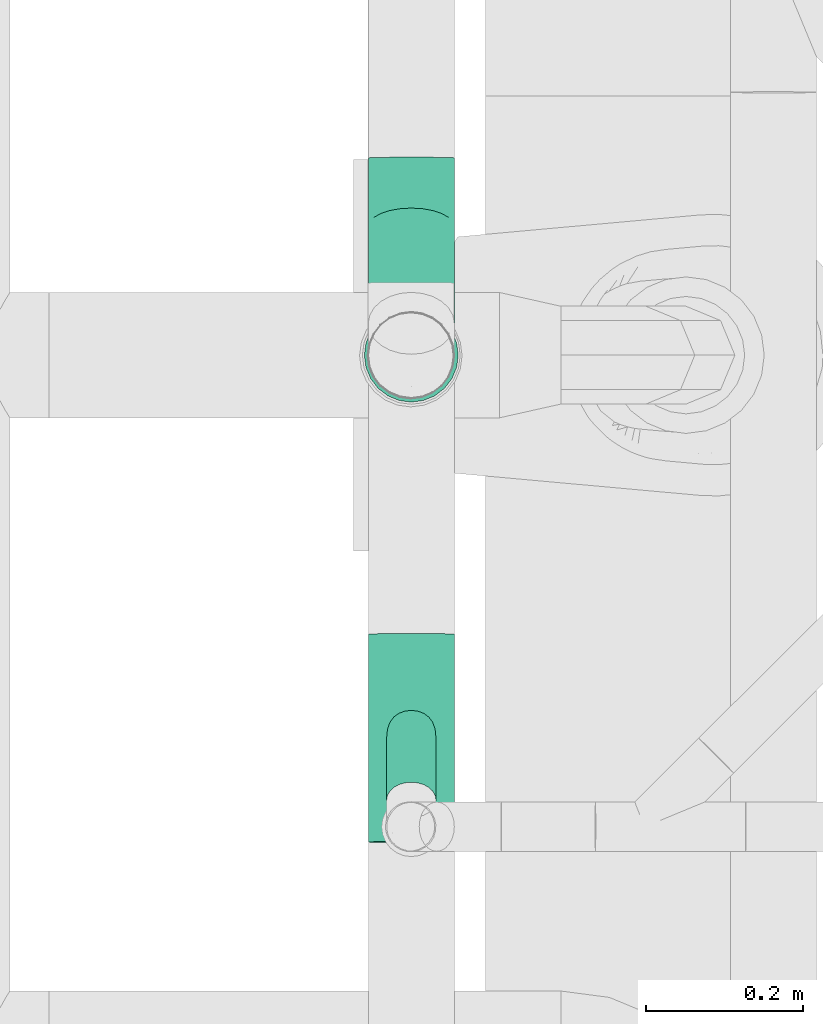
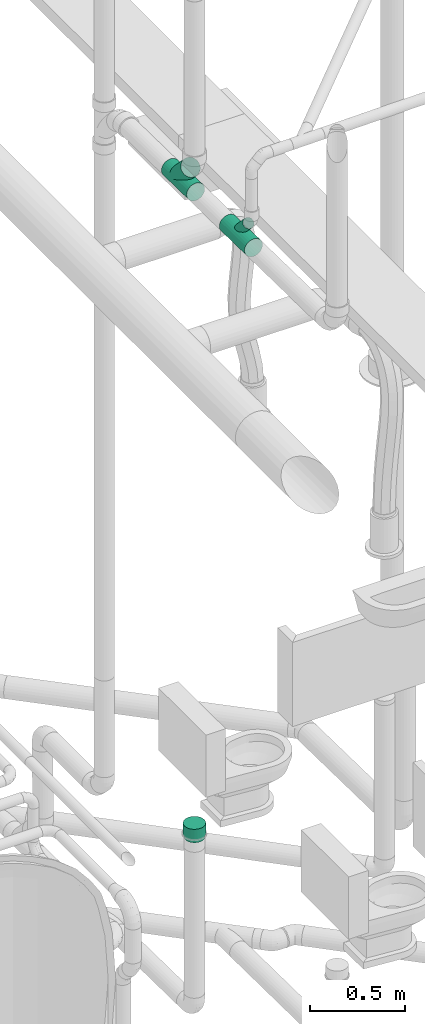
# One storey, part 129 of 374: 3 flow fittings.
"""IFC2X3 building model written with IfcOpenShell, lengths in metres."""

from ifc_helpers import new_model, si_unit, direction, origin, place, context, subcontext, project, spatial, open_shell, surface_model, source, transform, mapped, element, save


model = new_model("IFC2X3")

# Units and contexts
model_context = context("Model", 3, precision=1e-05, world=origin(), true_north=direction((-0.4480736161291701, 0.8939966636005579)))
body_context = subcontext(model_context, "Body", "Model", "MODEL_VIEW")
ifc_project = project(units=[si_unit("LENGTHUNIT", "METRE"), si_unit("AREAUNIT", "SQUARE_METRE"), si_unit("VOLUMEUNIT", "CUBIC_METRE"), si_unit("PLANEANGLEUNIT", "RADIAN"), si_unit("THERMODYNAMICTEMPERATUREUNIT", "KELVIN"), si_unit("MASSUNIT", "GRAM", prefix="KILO"), si_unit("TIMEUNIT", "SECOND")], contexts=[model_context])

# Site, building, storey
site_placement = place(None, origin())
site = spatial("IfcSite", under=ifc_project, at=site_placement, Name="Site 1", CompositionType="ELEMENT")
building_placement = place(site_placement, origin())
building = spatial("IfcBuilding", under=site, at=building_placement, Name="Undefined", CompositionType="ELEMENT")
storey_placement = place(building_placement, origin())
storey = spatial("IfcBuildingStorey", under=building, at=storey_placement, Name="Rez de chauss\x8ee", CompositionType="ELEMENT", Elevation=0.0)

# Flow fittings
shared_shape_1 = source(origin(), body_context, "Body", "SurfaceModel", [
    surface_model("IfcFaceBasedSurfaceModel", [(0.0, 0.015663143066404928, 0.0), (0.0, 0.0, 0.0), (0.06999999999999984, 0.0, 0.0), (0.06999999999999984, 0.015663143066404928, 0.0), (0.0, -0.015129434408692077, -0.004053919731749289), (0.06999999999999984, -0.015129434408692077, -0.004053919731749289), (0.0, -0.028694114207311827, -0.011885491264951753), (0.06999999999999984, -0.028694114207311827, -0.011885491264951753), (0.0, -0.03976962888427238, -0.022961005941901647), (0.06999999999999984, -0.03976962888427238, -0.022961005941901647), (0.0, -0.04760120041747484, -0.036525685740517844), (0.06999999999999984, -0.04760120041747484, -0.036525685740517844), (0.0, -0.051655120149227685, -0.05165512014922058), (0.06999999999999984, -0.051655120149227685, -0.05165512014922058), (0.0, -0.05165512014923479, -0.0673182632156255), (0.06999999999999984, -0.05165512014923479, -0.0673182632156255), (0.0, -0.04760120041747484, -0.0824476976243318), (0.06999999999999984, -0.04760120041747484, -0.0824476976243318), (0.0, -0.03976962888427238, -0.09601237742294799), (0.06999999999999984, -0.03976962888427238, -0.09601237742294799), (0.0, -0.028694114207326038, -0.10708789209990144), (0.06999999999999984, -0.028694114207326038, -0.10708789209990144), (0.0, -0.015129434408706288, -0.1149194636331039), (0.06999999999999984, -0.015129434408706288, -0.1149194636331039), (0.0, -1.4210854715e-14, -0.11897338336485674), (0.06999999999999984, -1.4210854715e-14, -0.11897338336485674), (0.0, 0.015663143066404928, -0.11897338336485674), (0.06999999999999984, 0.015663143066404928, -0.11897338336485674), (0.0, 0.030792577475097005, -0.11491946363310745), (0.06999999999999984, 0.030792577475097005, -0.11491946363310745), (0.0, 0.044357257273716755, -0.10708789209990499), (0.06999999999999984, 0.044357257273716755, -0.10708789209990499), (0.0, 0.0554327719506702, -0.0960123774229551), (0.06999999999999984, 0.0554327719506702, -0.0960123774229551), (0.0, 0.06326434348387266, -0.0824476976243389), (0.06999999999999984, 0.06326434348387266, -0.0824476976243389), (0.0, 0.0673182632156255, -0.06731826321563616), (0.06999999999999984, 0.0673182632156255, -0.06731826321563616), (0.0, 0.06731826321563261, -0.05165512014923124), (0.06999999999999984, 0.06731826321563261, -0.05165512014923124), (0.0, 0.06326434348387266, -0.0365256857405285), (0.06999999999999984, 0.06326434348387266, -0.0365256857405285), (0.0, 0.055432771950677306, -0.022961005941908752), (0.06999999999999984, 0.055432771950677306, -0.022961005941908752), (0.0, 0.044357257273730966, -0.011885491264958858), (0.06999999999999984, 0.044357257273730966, -0.011885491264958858), (0.0, 0.030792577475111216, -0.004053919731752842), (0.06999999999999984, 0.030792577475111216, -0.004053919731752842), (0.0, 0.007831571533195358, -0.059486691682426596), (0.06999999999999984, 0.007831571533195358, -0.059486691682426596), (0.06999999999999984, 0.015010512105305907, -0.004957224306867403), (0.06999999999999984, 0.0006526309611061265, -0.004957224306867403), (0.08999999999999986, 0.0006526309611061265, -0.004957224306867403), (0.08999999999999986, 0.015010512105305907, -0.004957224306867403), (0.06999999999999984, -0.013216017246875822, -0.008673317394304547), (0.08999999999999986, -0.013216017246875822, -0.008673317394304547), (0.06999999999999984, -0.025650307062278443, -0.01585225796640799), (0.08999999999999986, -0.025650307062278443, -0.01585225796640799), (0.06999999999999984, -0.03580286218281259, -0.02600481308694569), (0.08999999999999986, -0.03580286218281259, -0.02600481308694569), (0.06999999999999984, -0.04298180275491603, -0.038439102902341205), (0.08999999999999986, -0.04298180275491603, -0.038439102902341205), (0.06999999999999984, -0.046697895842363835, -0.0523077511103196), (0.08999999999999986, -0.046697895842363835, -0.0523077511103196), (0.06999999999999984, -0.046697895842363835, -0.06666563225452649), (0.08999999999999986, -0.046697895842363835, -0.06666563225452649), (0.06999999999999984, -0.04298180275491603, -0.08053428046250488), (0.08999999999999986, -0.04298180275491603, -0.08053428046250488), (0.06999999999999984, -0.035802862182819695, -0.09296857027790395), (0.08999999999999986, -0.035802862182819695, -0.09296857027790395), (0.06999999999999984, -0.025650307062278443, -0.10312112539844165), (0.08999999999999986, -0.025650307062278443, -0.10312112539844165), (0.06999999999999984, -0.013216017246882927, -0.11030006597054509), (0.08999999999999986, -0.013216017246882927, -0.11030006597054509), (0.06999999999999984, 0.0006526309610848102, -0.11401615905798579), (0.08999999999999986, 0.0006526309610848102, -0.11401615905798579), (0.06999999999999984, 0.015010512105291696, -0.11401615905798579), (0.08999999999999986, 0.015010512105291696, -0.11401615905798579), (0.06999999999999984, 0.02887916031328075, -0.1103000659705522), (0.08999999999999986, 0.02887916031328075, -0.1103000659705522), (0.06999999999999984, 0.041313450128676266, -0.10312112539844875), (0.08999999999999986, 0.041313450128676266, -0.10312112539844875), (0.06999999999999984, 0.05146600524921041, -0.09296857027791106), (0.08999999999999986, 0.05146600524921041, -0.09296857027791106), (0.06999999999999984, 0.058644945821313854, -0.08053428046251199), (0.08999999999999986, 0.058644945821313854, -0.08053428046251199), (0.06999999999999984, 0.06236103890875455, -0.06666563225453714), (0.08999999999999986, 0.06236103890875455, -0.06666563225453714), (0.06999999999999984, 0.06236103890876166, -0.05230775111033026), (0.08999999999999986, 0.06236103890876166, -0.05230775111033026), (0.06999999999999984, 0.058644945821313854, -0.03843910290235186), (0.08999999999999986, 0.058644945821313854, -0.03843910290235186), (0.06999999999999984, 0.05146600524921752, -0.026004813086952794), (0.08999999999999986, 0.05146600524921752, -0.026004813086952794), (0.06999999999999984, 0.04131345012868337, -0.015852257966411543), (0.08999999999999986, 0.04131345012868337, -0.015852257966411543), (0.06999999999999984, 0.02887916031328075, -0.0086733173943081), (0.08999999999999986, 0.02887916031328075, -0.0086733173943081)], [open_shell([[[0, 1, 2, 3]], [[1, 4, 5, 2]], [[4, 6, 7, 5]], [[6, 8, 9, 7]], [[8, 10, 11, 9]], [[10, 12, 13, 11]], [[12, 14, 15, 13]], [[14, 16, 17, 15]], [[16, 18, 19, 17]], [[18, 20, 21, 19]], [[20, 22, 23, 21]], [[22, 24, 25, 23]], [[24, 26, 27, 25]], [[26, 28, 29, 27]], [[28, 30, 31, 29]], [[30, 32, 33, 31]], [[32, 34, 35, 33]], [[34, 36, 37, 35]], [[36, 38, 39, 37]], [[38, 40, 41, 39]], [[40, 42, 43, 41]], [[42, 44, 45, 43]], [[44, 46, 47, 45]], [[46, 0, 3, 47]], [[48, 1, 0]], [[48, 4, 1]], [[48, 6, 4]], [[48, 8, 6]], [[48, 10, 8]], [[48, 12, 10]], [[48, 14, 12]], [[48, 16, 14]], [[48, 18, 16]], [[48, 20, 18]], [[48, 22, 20]], [[48, 24, 22]], [[48, 26, 24]], [[48, 28, 26]], [[48, 30, 28]], [[48, 32, 30]], [[48, 34, 32]], [[48, 36, 34]], [[48, 38, 36]], [[48, 40, 38]], [[48, 42, 40]], [[48, 44, 42]], [[48, 46, 44]], [[48, 0, 46]], [[49, 47, 3]], [[49, 45, 47]], [[49, 43, 45]], [[49, 41, 43]], [[49, 39, 41]], [[49, 37, 39]], [[49, 35, 37]], [[49, 33, 35]], [[49, 31, 33]], [[49, 29, 31]], [[49, 27, 29]], [[49, 25, 27]], [[49, 23, 25]], [[49, 21, 23]], [[49, 19, 21]], [[49, 17, 19]], [[49, 15, 17]], [[49, 13, 15]], [[49, 11, 13]], [[49, 9, 11]], [[49, 7, 9]], [[49, 5, 7]], [[49, 2, 5]], [[49, 3, 2]], [[50, 51, 52, 53]], [[51, 54, 55, 52]], [[54, 56, 57, 55]], [[56, 58, 59, 57]], [[58, 60, 61, 59]], [[60, 62, 63, 61]], [[62, 64, 65, 63]], [[64, 66, 67, 65]], [[66, 68, 69, 67]], [[68, 70, 71, 69]], [[70, 72, 73, 71]], [[72, 74, 75, 73]], [[74, 76, 77, 75]], [[76, 78, 79, 77]], [[78, 80, 81, 79]], [[80, 82, 83, 81]], [[82, 84, 85, 83]], [[84, 86, 87, 85]], [[86, 88, 89, 87]], [[88, 90, 91, 89]], [[90, 92, 93, 91]], [[92, 94, 95, 93]], [[94, 96, 97, 95]], [[96, 50, 53, 97]]])]),
])
flow_fitting_1_placement = place(storey_placement, origin())
element("IfcFlowFitting", 1, at=flow_fitting_1_placement, inside=storey, Name="PE-HD manchon pour WC au sol", ObjectType="PE-HD manchon pour WC au sol", context=body_context, shape_type="MappedRepresentation", body=[
    mapped(shared_shape_1, transform((57.05847085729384, 12.754537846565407, 0.0), x_axis=(0.0, 0.0, -1.0), y_axis=(0.9914448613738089, -0.13052619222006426, 0.0), z_axis=(-0.13052619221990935, -0.9914448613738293, 0.0))),
])
shared_shape_2 = source(origin(), body_context, "Body", "SurfaceModel", [
    surface_model("IfcFaceBasedSurfaceModel", [(0.0, 0.014357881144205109, -3.552713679e-15), (0.0, 0.0, 0.0), (0.2656999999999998, 0.0, 0.0), (0.2656999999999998, 0.014357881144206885, 0.0), (0.0, -0.01386864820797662, -0.0037160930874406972), (0.2656999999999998, -0.013868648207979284, -0.003716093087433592), (0.0, -0.026302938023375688, -0.010895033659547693), (0.2656999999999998, -0.026302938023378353, -0.010895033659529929), (0.0, -0.03645549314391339, -0.021047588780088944), (0.2656999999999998, -0.03645549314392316, -0.021047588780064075), (0.0, -0.04363443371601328, -0.033481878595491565), (0.2656999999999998, -0.043634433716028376, -0.033481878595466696), (0.0, -0.04735052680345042, -0.04735052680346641), (0.2656999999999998, -0.0473505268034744, -0.047350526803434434), (0.0, -0.04735052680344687, -0.06170840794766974), (0.2656999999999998, -0.04735052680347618, -0.06170840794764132), (0.0, -0.04363443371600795, -0.07557705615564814), (0.2656999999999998, -0.04363443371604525, -0.07557705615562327), (0.0, -0.03645549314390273, -0.08801134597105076), (0.2656999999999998, -0.036455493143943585, -0.08801134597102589), (0.0, -0.026302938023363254, -0.0981639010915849), (0.2656999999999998, -0.026302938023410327, -0.09816390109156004), (0.0, -0.013868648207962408, -0.1053428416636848), (0.2656999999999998, -0.013868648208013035, -0.10534284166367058), (0.0, 1.5987211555e-14, -0.10905893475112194), (0.2656999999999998, -3.6415315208e-14, -0.10905893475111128), (0.0, 0.014357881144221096, -0.10905893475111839), (0.2656999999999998, 0.014357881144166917, -0.10905893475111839), (0.0, 0.028226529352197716, -0.10534284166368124), (0.2656999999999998, 0.02822652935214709, -0.1053428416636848), (0.0, 0.040660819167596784, -0.0981639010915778), (0.2656999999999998, 0.04066081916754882, -0.09816390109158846), (0.0, 0.05081337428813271, -0.08801134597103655), (0.2656999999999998, 0.0508133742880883, -0.08801134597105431), (0.0, 0.05799231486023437, -0.07557705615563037), (0.2656999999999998, 0.05799231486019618, -0.07557705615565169), (0.0, 0.06170840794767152, -0.06170840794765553), (0.2656999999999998, 0.06170840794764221, -0.06170840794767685), (0.0, 0.061708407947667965, -0.0473505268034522), (0.2656999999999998, 0.061708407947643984, -0.04735052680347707), (0.0, 0.05799231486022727, -0.033481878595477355), (0.2656999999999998, 0.05799231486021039, -0.03348187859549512), (0.0, 0.050813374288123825, -0.021047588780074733), (0.2656999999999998, 0.050813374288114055, -0.021047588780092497), (0.0, 0.04066081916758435, -0.010895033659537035), (0.2656999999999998, 0.04066081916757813, -0.01089503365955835), (0.0, 0.028226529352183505, -0.0037160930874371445), (0.2656999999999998, 0.028226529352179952, -0.0037160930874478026), (0.1873977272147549, 0.06170840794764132, -0.06170840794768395), (0.18527218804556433, 0.0600418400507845, -0.0697121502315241), (0.2355834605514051, 0.10992269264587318, -0.07627908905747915), (0.23634242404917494, 0.11023437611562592, -0.06809697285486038), (0.17912611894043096, 0.05736898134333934, -0.07702301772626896), (0.23335829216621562, 0.11113719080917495, -0.08410173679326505), (0.1696379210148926, 0.05412931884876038, -0.08317666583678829), (0.2298185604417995, 0.11379510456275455, -0.09103181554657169), (0.15788171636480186, 0.05096748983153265, -0.08780953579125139), (0.2252054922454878, 0.11771530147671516, -0.0965970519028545), (0.145197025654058, 0.04863271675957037, -0.09067617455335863), (0.2198334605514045, 0.12263062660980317, -0.10041818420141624), (0.1329360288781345, 0.04776767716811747, -0.09164488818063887), (0.2140685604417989, 0.12820610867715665, -0.10223480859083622), (0.12213742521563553, 0.04863271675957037, -0.09067617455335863), (0.20830366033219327, 0.13406178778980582, -0.1019231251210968), (0.11333398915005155, 0.05096748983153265, -0.08780953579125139), (0.20293162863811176, 0.13979860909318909, -0.09950437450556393), (0.106637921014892, 0.05412931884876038, -0.08317666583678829), (0.1983185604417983, 0.14502561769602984, -0.095143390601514), (0.10196719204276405, 0.05736898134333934, -0.07702301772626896), (0.19477882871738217, 0.14938660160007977, -0.08913736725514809), (0.09921258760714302, 0.06004184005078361, -0.06971215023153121), (0.19255366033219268, 0.15258436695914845, -0.08189560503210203), (0.09830227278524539, 0.06170840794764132, -0.06170840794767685), (0.19179469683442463, 0.15440099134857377, -0.07391161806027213), (0.09921258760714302, 0.062170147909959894, -0.05354604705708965), (0.19255366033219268, 0.15471267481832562, -0.06572950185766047), (0.10196719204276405, 0.06148055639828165, -0.04579250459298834), (0.19477882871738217, 0.15349817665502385, -0.05790685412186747), (0.106637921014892, 0.05994396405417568, -0.03901005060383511), (0.1983185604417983, 0.15084026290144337, -0.05097677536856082), (0.11333398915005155, 0.05808894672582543, -0.03371670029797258), (0.20293162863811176, 0.14692006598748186, -0.04541153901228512), (0.12213742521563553, 0.05657566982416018, -0.03034345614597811), (0.20830366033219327, 0.14200474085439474, -0.04159040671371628), (0.1329360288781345, 0.0559908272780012, -0.029183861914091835), (0.2140685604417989, 0.13642925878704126, -0.039773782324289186), (0.145197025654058, 0.05657566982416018, -0.03034345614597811), (0.2198334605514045, 0.13057357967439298, -0.04008546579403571), (0.15788171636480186, 0.05808894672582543, -0.03371670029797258), (0.2252054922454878, 0.12483675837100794, -0.04250421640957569), (0.1696379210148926, 0.05994396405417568, -0.03901005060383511), (0.2298185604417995, 0.11960974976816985, -0.046865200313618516), (0.17912611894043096, 0.06148055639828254, -0.04579250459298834), (0.23335829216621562, 0.11524876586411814, -0.05287122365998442), (0.18527218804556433, 0.062170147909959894, -0.053546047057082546), (0.2355834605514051, 0.11205100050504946, -0.060112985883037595)], [open_shell([[[0, 1, 2, 3]], [[1, 4, 5, 2]], [[4, 6, 7, 5]], [[6, 8, 9, 7]], [[8, 10, 11, 9]], [[10, 12, 13, 11]], [[12, 14, 15, 13]], [[14, 16, 17, 15]], [[16, 18, 19, 17]], [[18, 20, 21, 19]], [[20, 22, 23, 21]], [[22, 24, 25, 23]], [[24, 26, 27, 25]], [[26, 28, 29, 27]], [[28, 30, 31, 29]], [[30, 32, 33, 31]], [[32, 34, 35, 33]], [[34, 36, 37, 35]], [[36, 38, 39, 37]], [[38, 40, 41, 39]], [[40, 42, 43, 41]], [[42, 44, 45, 43]], [[44, 46, 47, 45]], [[46, 0, 3, 47]], [[48, 49, 50, 51]], [[49, 52, 53, 50]], [[52, 54, 55, 53]], [[54, 56, 57, 55]], [[56, 58, 59, 57]], [[58, 60, 61, 59]], [[60, 62, 63, 61]], [[62, 64, 65, 63]], [[64, 66, 67, 65]], [[66, 68, 69, 67]], [[68, 70, 71, 69]], [[70, 72, 73, 71]], [[72, 74, 75, 73]], [[74, 76, 77, 75]], [[76, 78, 79, 77]], [[78, 80, 81, 79]], [[80, 82, 83, 81]], [[82, 84, 85, 83]], [[84, 86, 87, 85]], [[86, 88, 89, 87]], [[88, 90, 91, 89]], [[90, 92, 93, 91]], [[92, 94, 95, 93]], [[94, 48, 51, 95]]])]),
])
flow_fitting_2_placement = place(storey_placement, origin())
element("IfcFlowFitting", 2, at=flow_fitting_2_placement, inside=storey, Name="PE-HD embranchement 45°", ObjectType="PE-HD embranchement 45°", context=body_context, shape_type="MappedRepresentation", body=[
    mapped(shared_shape_2, transform((57.0208740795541, 12.455690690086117, 4.051569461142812), x_axis=(0.0, -0.9998476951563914, 0.01745240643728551), y_axis=(-0.1305261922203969, 0.017303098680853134, 0.9912938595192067), z_axis=(-0.9914448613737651, -0.0022779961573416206, -0.13050631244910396))),
])
shared_shape_3 = source(origin(), body_context, "Body", "SurfaceModel", [
    surface_model("IfcFaceBasedSurfaceModel", [(0.2656999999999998, 0.0, 0.0), (0.2656999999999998, 0.014357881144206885, 0.0), (0.0, 0.014357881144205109, -3.552713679e-15), (0.0, 0.0, 0.0), (0.2656999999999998, 0.028226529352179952, -0.0037160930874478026), (0.0, 0.028226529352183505, -0.0037160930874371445), (0.2656999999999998, 0.04066081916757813, -0.01089503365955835), (0.0, 0.04066081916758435, -0.010895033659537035), (0.2656999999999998, 0.050813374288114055, -0.021047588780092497), (0.0, 0.050813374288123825, -0.021047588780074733), (0.2656999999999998, 0.05799231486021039, -0.03348187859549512), (0.0, 0.05799231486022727, -0.033481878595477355), (0.2656999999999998, 0.061708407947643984, -0.04735052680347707), (0.0, 0.061708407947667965, -0.0473505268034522), (0.2656999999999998, 0.06170840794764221, -0.06170840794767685), (0.0, 0.06170840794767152, -0.06170840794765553), (0.2656999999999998, 0.05799231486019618, -0.07557705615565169), (0.0, 0.05799231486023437, -0.07557705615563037), (0.2656999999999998, 0.0508133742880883, -0.08801134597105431), (0.0, 0.05081337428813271, -0.08801134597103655), (0.2656999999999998, 0.04066081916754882, -0.09816390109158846), (0.0, 0.040660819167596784, -0.0981639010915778), (0.2656999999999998, 0.02822652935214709, -0.1053428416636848), (0.0, 0.028226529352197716, -0.10534284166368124), (0.2656999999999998, 0.014357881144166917, -0.10905893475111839), (0.0, 0.014357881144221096, -0.10905893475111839), (0.2656999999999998, -3.6415315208e-14, -0.10905893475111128), (0.0, 1.5987211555e-14, -0.10905893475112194), (0.2656999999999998, -0.013868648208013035, -0.10534284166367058), (0.0, -0.013868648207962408, -0.1053428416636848), (0.2656999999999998, -0.026302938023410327, -0.09816390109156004), (0.0, -0.026302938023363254, -0.0981639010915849), (0.2656999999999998, -0.036455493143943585, -0.08801134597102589), (0.0, -0.03645549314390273, -0.08801134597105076), (0.2656999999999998, -0.04363443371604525, -0.07557705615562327), (0.0, -0.04363443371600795, -0.07557705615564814), (0.2656999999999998, -0.04735052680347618, -0.06170840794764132), (0.0, -0.04735052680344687, -0.06170840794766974), (0.2656999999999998, -0.0473505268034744, -0.047350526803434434), (0.0, -0.04735052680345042, -0.04735052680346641), (0.2656999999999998, -0.043634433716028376, -0.033481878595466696), (0.0, -0.04363443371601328, -0.033481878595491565), (0.2656999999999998, -0.03645549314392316, -0.021047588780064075), (0.0, -0.03645549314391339, -0.021047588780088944), (0.2656999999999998, -0.026302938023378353, -0.010895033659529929), (0.0, -0.026302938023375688, -0.010895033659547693), (0.2656999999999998, -0.013868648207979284, -0.003716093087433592), (0.0, -0.01386864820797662, -0.0037160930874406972), (0.04506825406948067, -0.04735052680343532, -0.06170840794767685), (0.04959268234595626, -0.04363443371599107, -0.07557705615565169), (0.014525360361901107, -0.07840174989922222, -0.08015426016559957), (0.013200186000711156, -0.07894595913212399, -0.06586802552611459), (0.0628576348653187, -0.03645549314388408, -0.08801134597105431), (0.0184105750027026, -0.08052230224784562, -0.09381285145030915), (0.08395912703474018, -0.026302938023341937, -0.09816390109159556), (0.02459105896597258, -0.08516310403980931, -0.10591298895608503), (0.11145912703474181, -0.013868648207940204, -0.1053428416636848), (0.03264562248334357, -0.09200789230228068, -0.11563006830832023), (0.14348355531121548, 3.8191672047e-14, -0.10905893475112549), (0.042025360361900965, -0.10059020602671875, -0.12230188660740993), (0.17785000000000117, 0.014357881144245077, -0.10905893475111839), (0.05209105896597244, -0.1103251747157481, -0.12547377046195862), (0.1837463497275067, 3.8191672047e-14, -0.10905893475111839), (0.06215675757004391, -0.12054937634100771, -0.12492956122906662), (0.18924087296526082, -0.013868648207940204, -0.10534284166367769), (0.07153649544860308, -0.13056604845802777, -0.12070634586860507), (0.1939591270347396, -0.02630293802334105, -0.09816390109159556), (0.07959105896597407, -0.13969257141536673, -0.11309192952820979), (0.19757957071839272, -0.03645549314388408, -0.0880113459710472), (0.08577154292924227, -0.14730698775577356, -0.10260522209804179), (0.1998554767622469, -0.04363443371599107, -0.07557705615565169), (0.08965675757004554, -0.1528903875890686, -0.08996087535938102), (0.20063174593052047, -0.04735052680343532, -0.06170840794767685), (0.09098193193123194, -0.15606227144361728, -0.07602058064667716), (0.1998554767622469, -0.047350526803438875, -0.04735052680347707), (0.08965675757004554, -0.15660648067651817, -0.0617343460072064), (0.19757957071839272, -0.04363443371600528, -0.03348187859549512), (0.08577154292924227, -0.15448592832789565, -0.048075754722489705), (0.1939591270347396, -0.03645549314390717, -0.021047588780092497), (0.07959105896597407, -0.14984512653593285, -0.03597561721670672), (0.18924087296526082, -0.026302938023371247, -0.010895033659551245), (0.07153649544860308, -0.1430003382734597, -0.026258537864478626), (0.1837463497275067, -0.013868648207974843, -0.0037160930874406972), (0.06215675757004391, -0.13441802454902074, -0.019586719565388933), (0.17785000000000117, 8.8817842e-16, 0.0), (0.05209105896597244, -0.12468305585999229, -0.016414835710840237), (0.14348355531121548, -0.013868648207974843, -0.0037160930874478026), (0.042025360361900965, -0.11445885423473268, -0.016959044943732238), (0.11145912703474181, -0.026302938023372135, -0.01089503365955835), (0.03264562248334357, -0.10444218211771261, -0.02118226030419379), (0.08395912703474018, -0.03645549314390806, -0.021047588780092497), (0.02459105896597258, -0.09531565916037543, -0.028796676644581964), (0.0628576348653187, -0.04363443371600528, -0.033481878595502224), (0.0184105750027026, -0.08770124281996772, -0.039283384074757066), (0.04959268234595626, -0.047350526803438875, -0.04735052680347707), (0.014525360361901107, -0.0821178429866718, -0.051927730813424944)], [open_shell([[[0, 1, 2, 3]], [[1, 4, 5, 2]], [[4, 6, 7, 5]], [[6, 8, 9, 7]], [[8, 10, 11, 9]], [[10, 12, 13, 11]], [[12, 14, 15, 13]], [[14, 16, 17, 15]], [[16, 18, 19, 17]], [[18, 20, 21, 19]], [[20, 22, 23, 21]], [[22, 24, 25, 23]], [[24, 26, 27, 25]], [[26, 28, 29, 27]], [[28, 30, 31, 29]], [[30, 32, 33, 31]], [[32, 34, 35, 33]], [[34, 36, 37, 35]], [[36, 38, 39, 37]], [[38, 40, 41, 39]], [[40, 42, 43, 41]], [[42, 44, 45, 43]], [[44, 46, 47, 45]], [[46, 0, 3, 47]], [[48, 49, 50, 51]], [[49, 52, 53, 50]], [[52, 54, 55, 53]], [[54, 56, 57, 55]], [[56, 58, 59, 57]], [[58, 60, 61, 59]], [[60, 62, 63, 61]], [[62, 64, 65, 63]], [[64, 66, 67, 65]], [[66, 68, 69, 67]], [[68, 70, 71, 69]], [[70, 72, 73, 71]], [[72, 74, 75, 73]], [[74, 76, 77, 75]], [[76, 78, 79, 77]], [[78, 80, 81, 79]], [[80, 82, 83, 81]], [[82, 84, 85, 83]], [[84, 86, 87, 85]], [[86, 88, 89, 87]], [[88, 90, 91, 89]], [[90, 92, 93, 91]], [[92, 94, 95, 93]], [[94, 48, 51, 95]]])]),
])
flow_fitting_3_placement = place(storey_placement, origin())
element("IfcFlowFitting", 3, at=flow_fitting_3_placement, inside=storey, Name="PE-HD embranchement 45°", ObjectType="PE-HD embranchement 45°", context=body_context, shape_type="MappedRepresentation", body=[
    mapped(shared_shape_3, transform((57.01899999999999, 12.798910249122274, 4.059810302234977), x_axis=(0.0, 0.9998476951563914, -0.017452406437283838), y_axis=(0.1305261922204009, -0.01730309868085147, -0.9912938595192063), z_axis=(-0.9914448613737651, -0.0022779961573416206, -0.13050631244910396))),
])

save(model, "model.ifc")
